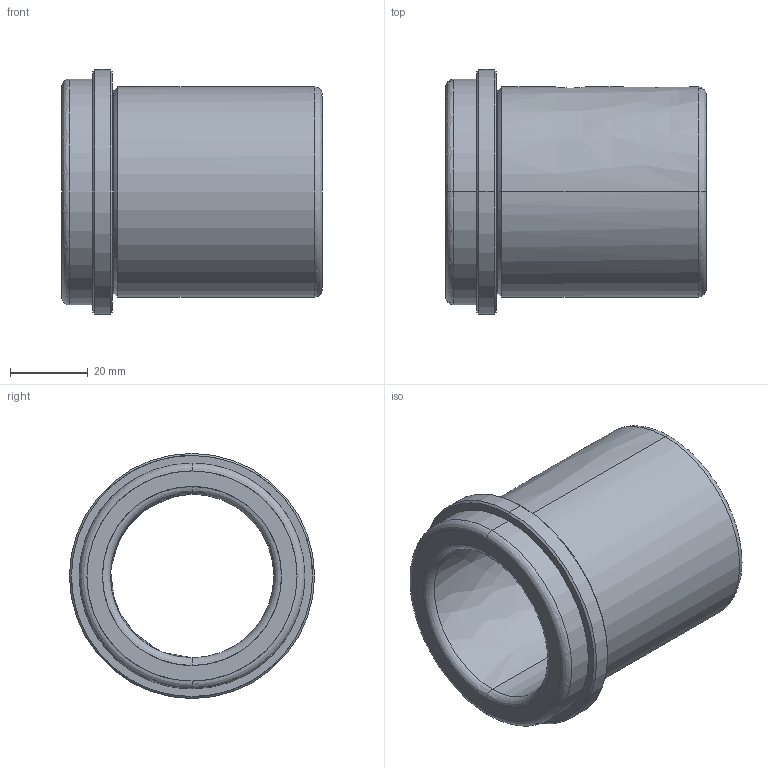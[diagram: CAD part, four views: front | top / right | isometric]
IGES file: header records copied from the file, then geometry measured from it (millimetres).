
Start section: START RECORD GO HERE.
Global section: file name: CF 632 42 x 67.igs; native system: DASSAULT SYSTEMES CATIA V5 R20 - www.3ds.com; preprocessor: CATIA Version 5 Release 20 ; author: Utente; organization: NB04-ASUS; date: 20201226.203351; units: millimetre
Bounding box: 67 x 63 x 63 mm (x, y, z)
Surface area: 23783.8 mm2 (no closed solid volume)
Topology: 0 solids, 0 shells, 33 faces, 228 edges, 228 vertices
Faces by surface type: revolution 28, plane 5
